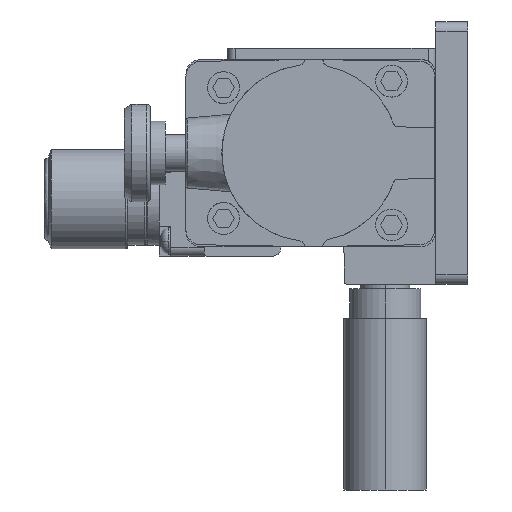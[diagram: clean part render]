
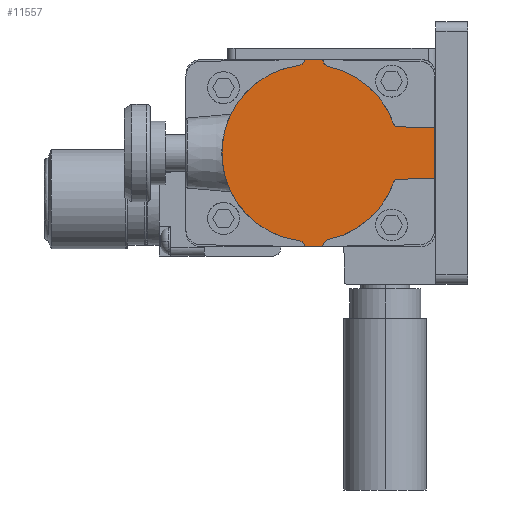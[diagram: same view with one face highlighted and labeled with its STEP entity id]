
A CAD part, left-side view. The second image highlights one B-rep face of the part: STEP entity #11557.
In plain terms, the highlighted planar face has unit normal (-1, 0, 0).
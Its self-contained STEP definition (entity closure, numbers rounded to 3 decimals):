
#211 = VERTEX_POINT ( 'NONE', #9629 ) ;
#276 = ORIENTED_EDGE ( 'NONE', *, *, #8349, .F. ) ;
#321 = CARTESIAN_POINT ( 'NONE',  ( -75., 8.8, -6.685 ) ) ;
#349 = CARTESIAN_POINT ( 'NONE',  ( -75., 37.059, 23.077 ) ) ;
#370 = FACE_OUTER_BOUND ( 'NONE', #3916, .T. ) ;
#419 = EDGE_CURVE ( 'NONE', #11683, #1800, #5599, .T. ) ;
#452 = CARTESIAN_POINT ( 'NONE',  ( -75., 42., 0. ) ) ;
#520 = DIRECTION ( 'NONE',  ( 0., 0., -1. ) ) ;
#573 = VECTOR ( 'NONE', #5212, 1000. ) ;
#647 = ORIENTED_EDGE ( 'NONE', *, *, #10717, .F. ) ;
#657 = AXIS2_PLACEMENT_3D ( 'NONE', #8781, #11507, #6127 ) ;
#1049 = CIRCLE ( 'NONE', #7058, 2. ) ;
#1104 = ORIENTED_EDGE ( 'NONE', *, *, #6733, .F. ) ;
#1172 = CARTESIAN_POINT ( 'NONE',  ( -75., 38.64, -25. ) ) ;
#1190 = CIRCLE ( 'NONE', #9513, 2. ) ;
#1290 = EDGE_CURVE ( 'NONE', #4334, #1800, #1190, .T. ) ;
#1338 = LINE ( 'NONE', #6101, #6622 ) ;
#1381 = DIRECTION ( 'NONE',  ( 0., 0., -1. ) ) ;
#1429 = LINE ( 'NONE', #8508, #10243 ) ;
#1520 = CARTESIAN_POINT ( 'NONE',  ( -75., 45.079, -23.398 ) ) ;
#1522 = CARTESIAN_POINT ( 'NONE',  ( -75., 8.8, 25.381 ) ) ;
#1800 = VERTEX_POINT ( 'NONE', #10206 ) ;
#1840 = EDGE_CURVE ( 'NONE', #5513, #3374, #1429, .T. ) ;
#1860 = VECTOR ( 'NONE', #3413, 1000. ) ;
#2009 = LINE ( 'NONE', #5829, #573 ) ;
#2196 = AXIS2_PLACEMENT_3D ( 'NONE', #10747, #5358, #11645 ) ;
#2626 = CIRCLE ( 'NONE', #3256, 23.6 ) ;
#2809 = EDGE_CURVE ( 'NONE', #8385, #10512, #2009, .T. ) ;
#3256 = AXIS2_PLACEMENT_3D ( 'NONE', #452, #6855, #1381 ) ;
#3260 = CARTESIAN_POINT ( 'NONE',  ( -75., 19.694, 7.706 ) ) ;
#3324 = CARTESIAN_POINT ( 'NONE',  ( -75., 38.64, -25. ) ) ;
#3374 = VERTEX_POINT ( 'NONE', #7011 ) ;
#3388 = CARTESIAN_POINT ( 'NONE',  ( -75., 18.783, 7.034 ) ) ;
#3413 = DIRECTION ( 'NONE',  ( 0., 0., -1. ) ) ;
#3530 = ORIENTED_EDGE ( 'NONE', *, *, #11226, .T. ) ;
#3635 = ORIENTED_EDGE ( 'NONE', *, *, #5582, .F. ) ;
#3703 = CARTESIAN_POINT ( 'NONE',  ( -75., 19.694, -7.706 ) ) ;
#3916 = EDGE_LOOP ( 'NONE', ( #3635, #6859, #7336, #4789, #4351, #3530, #6657, #11354, #1104, #4097, #276, #647, #5908, #10022 ) ) ;
#4097 = ORIENTED_EDGE ( 'NONE', *, *, #6357, .T. ) ;
#4144 = CIRCLE ( 'NONE', #2196, 2. ) ;
#4334 = VERTEX_POINT ( 'NONE', #3324 ) ;
#4345 = EDGE_CURVE ( 'NONE', #7931, #5513, #11499, .T. ) ;
#4351 = ORIENTED_EDGE ( 'NONE', *, *, #419, .F. ) ;
#4452 = DIRECTION ( 'NONE',  ( 1., 0., 0. ) ) ;
#4537 = DIRECTION ( 'NONE',  ( -1., 0., 0. ) ) ;
#4627 = CARTESIAN_POINT ( 'NONE',  ( -75., 18.749, -8.033 ) ) ;
#4789 = ORIENTED_EDGE ( 'NONE', *, *, #1290, .T. ) ;
#5206 = PLANE ( 'NONE',  #657 ) ;
#5212 = DIRECTION ( 'NONE',  ( 0., 1., 0. ) ) ;
#5358 = DIRECTION ( 'NONE',  ( -1., 0., 0. ) ) ;
#5370 = LINE ( 'NONE', #1172, #9148 ) ;
#5497 = DIRECTION ( 'NONE',  ( 1., 0., 0. ) ) ;
#5513 = VERTEX_POINT ( 'NONE', #321 ) ;
#5538 = DIRECTION ( 'NONE',  ( 0., 0., -1. ) ) ;
#5582 = EDGE_CURVE ( 'NONE', #11540, #211, #11586, .T. ) ;
#5599 = CIRCLE ( 'NONE', #9810, 23.6 ) ;
#5797 = AXIS2_PLACEMENT_3D ( 'NONE', #11393, #6017, #520 ) ;
#5829 = CARTESIAN_POINT ( 'NONE',  ( -75., 43.377, 25. ) ) ;
#5908 = ORIENTED_EDGE ( 'NONE', *, *, #2809, .T. ) ;
#5998 = DIRECTION ( 'NONE',  ( 0., 0., -1. ) ) ;
#6017 = DIRECTION ( 'NONE',  ( -1., 0., 0. ) ) ;
#6021 = AXIS2_PLACEMENT_3D ( 'NONE', #4627, #10934, #5538 ) ;
#6027 = CARTESIAN_POINT ( 'NONE',  ( -75., 38.64, 25. ) ) ;
#6070 = VERTEX_POINT ( 'NONE', #3260 ) ;
#6101 = CARTESIAN_POINT ( 'NONE',  ( -75., 18.783, 7.034 ) ) ;
#6127 = DIRECTION ( 'NONE',  ( 0., 0., -1. ) ) ;
#6251 = AXIS2_PLACEMENT_3D ( 'NONE', #11416, #5497, #11773 ) ;
#6357 = EDGE_CURVE ( 'NONE', #7506, #6070, #10873, .T. ) ;
#6527 = VERTEX_POINT ( 'NONE', #6722 ) ;
#6577 = CIRCLE ( 'NONE', #6021, 1. ) ;
#6622 = VECTOR ( 'NONE', #7000, 1000. ) ;
#6657 = ORIENTED_EDGE ( 'NONE', *, *, #1840, .F. ) ;
#6722 = CARTESIAN_POINT ( 'NONE',  ( -75., 43.377, -25. ) ) ;
#6733 = EDGE_CURVE ( 'NONE', #7506, #7931, #1338, .T. ) ;
#6855 = DIRECTION ( 'NONE',  ( 1., 0., 0. ) ) ;
#6859 = ORIENTED_EDGE ( 'NONE', *, *, #7730, .F. ) ;
#7000 = DIRECTION ( 'NONE',  ( 0., -0.999, -0.035 ) ) ;
#7011 = CARTESIAN_POINT ( 'NONE',  ( -75., 18.783, -7.034 ) ) ;
#7058 = AXIS2_PLACEMENT_3D ( 'NONE', #9919, #4537, #10843 ) ;
#7102 = EDGE_CURVE ( 'NONE', #211, #10512, #1049, .T. ) ;
#7333 = VERTEX_POINT ( 'NONE', #349 ) ;
#7336 = ORIENTED_EDGE ( 'NONE', *, *, #9337, .T. ) ;
#7506 = VERTEX_POINT ( 'NONE', #3388 ) ;
#7516 = AXIS2_PLACEMENT_3D ( 'NONE', #7927, #8012, #8703 ) ;
#7730 = EDGE_CURVE ( 'NONE', #6527, #11540, #8597, .T. ) ;
#7927 = CARTESIAN_POINT ( 'NONE',  ( -75., 42., 0. ) ) ;
#7931 = VERTEX_POINT ( 'NONE', #8985 ) ;
#8012 = DIRECTION ( 'NONE',  ( 1., 0., 0. ) ) ;
#8313 = CARTESIAN_POINT ( 'NONE',  ( -75., 42., 0. ) ) ;
#8349 = EDGE_CURVE ( 'NONE', #7333, #6070, #2626, .T. ) ;
#8385 = VERTEX_POINT ( 'NONE', #6027 ) ;
#8465 = DIRECTION ( 'NONE',  ( 0., 0.999, -0.035 ) ) ;
#8508 = CARTESIAN_POINT ( 'NONE',  ( -75., 8.8, -6.685 ) ) ;
#8597 = CIRCLE ( 'NONE', #5797, 2. ) ;
#8703 = DIRECTION ( 'NONE',  ( 0., 0., -1. ) ) ;
#8781 = CARTESIAN_POINT ( 'NONE',  ( -75., 45.34, 25.381 ) ) ;
#8985 = CARTESIAN_POINT ( 'NONE',  ( -75., 8.8, 6.685 ) ) ;
#9148 = VECTOR ( 'NONE', #11561, 1000. ) ;
#9337 = EDGE_CURVE ( 'NONE', #6527, #4334, #5370, .T. ) ;
#9510 = CARTESIAN_POINT ( 'NONE',  ( -75., 43.377, 25. ) ) ;
#9513 = AXIS2_PLACEMENT_3D ( 'NONE', #11170, #9663, #9743 ) ;
#9629 = CARTESIAN_POINT ( 'NONE',  ( -75., 45.079, 23.398 ) ) ;
#9663 = DIRECTION ( 'NONE',  ( 1., 0., 0. ) ) ;
#9743 = DIRECTION ( 'NONE',  ( 0., 0., -1. ) ) ;
#9810 = AXIS2_PLACEMENT_3D ( 'NONE', #8313, #4452, #5998 ) ;
#9919 = CARTESIAN_POINT ( 'NONE',  ( -75., 45.34, 25.381 ) ) ;
#10022 = ORIENTED_EDGE ( 'NONE', *, *, #7102, .F. ) ;
#10206 = CARTESIAN_POINT ( 'NONE',  ( -75., 37.059, -23.077 ) ) ;
#10243 = VECTOR ( 'NONE', #8465, 1000. ) ;
#10512 = VERTEX_POINT ( 'NONE', #9510 ) ;
#10717 = EDGE_CURVE ( 'NONE', #8385, #7333, #4144, .T. ) ;
#10747 = CARTESIAN_POINT ( 'NONE',  ( -75., 36.64, 25.033 ) ) ;
#10843 = DIRECTION ( 'NONE',  ( 0., 0., -1. ) ) ;
#10873 = CIRCLE ( 'NONE', #6251, 1. ) ;
#10934 = DIRECTION ( 'NONE',  ( 1., 0., 0. ) ) ;
#11170 = CARTESIAN_POINT ( 'NONE',  ( -75., 36.64, -25.033 ) ) ;
#11226 = EDGE_CURVE ( 'NONE', #11683, #3374, #6577, .T. ) ;
#11354 = ORIENTED_EDGE ( 'NONE', *, *, #4345, .F. ) ;
#11393 = CARTESIAN_POINT ( 'NONE',  ( -75., 45.34, -25.381 ) ) ;
#11416 = CARTESIAN_POINT ( 'NONE',  ( -75., 18.749, 8.033 ) ) ;
#11499 = LINE ( 'NONE', #1522, #1860 ) ;
#11507 = DIRECTION ( 'NONE',  ( 1., 0., 0. ) ) ;
#11540 = VERTEX_POINT ( 'NONE', #1520 ) ;
#11557 = ADVANCED_FACE ( 'NONE', ( #370 ), #5206, .F. ) ;
#11561 = DIRECTION ( 'NONE',  ( 0., -1., 0. ) ) ;
#11586 = CIRCLE ( 'NONE', #7516, 23.6 ) ;
#11645 = DIRECTION ( 'NONE',  ( 0., 0., -1. ) ) ;
#11683 = VERTEX_POINT ( 'NONE', #3703 ) ;
#11773 = DIRECTION ( 'NONE',  ( 0., 0., -1. ) ) ;
